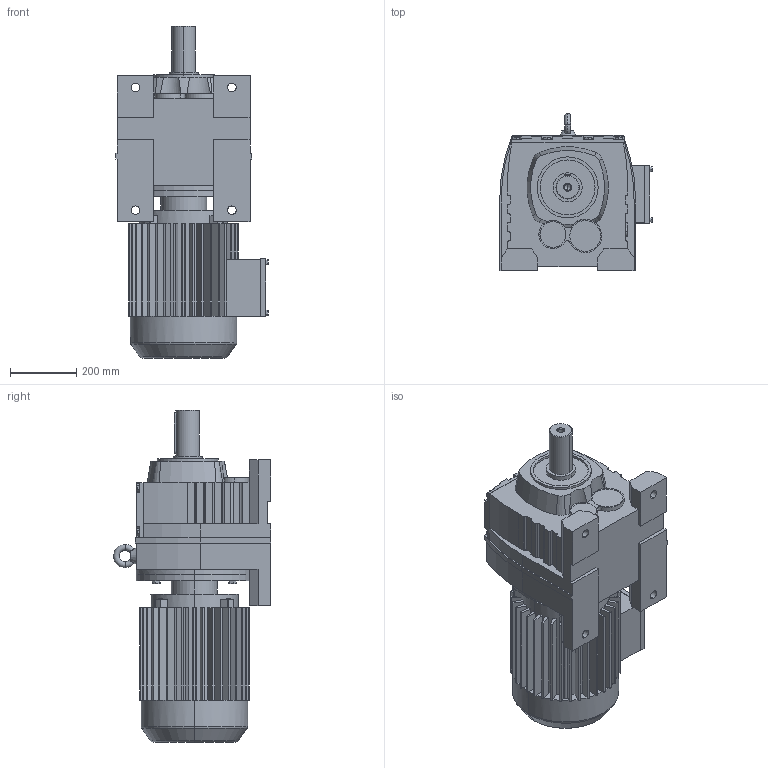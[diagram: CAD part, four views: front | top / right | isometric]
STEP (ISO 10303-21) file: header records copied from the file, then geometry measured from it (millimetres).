
FILE_DESCRIPTION(('Open CASCADE Model'),'2;1');
FILE_NAME('Open CASCADE Shape Model','2021-07-05T17:06:17',('Author'),( 'Open CASCADE'),'Open CASCADE STEP processor 6.3','Open CASCADE 6.3' ,'Unknown');
FILE_SCHEMA(('AUTOMOTIVE_DESIGN_CC2 { 1 2 10303 214 -1 1 5 4 }'));
Length unit declared in the file: millimetre
Products named in the file (3): 1_R107-Y160M; R37‵167_107.step; 萇儂_350_Y160M.step
Assembly tree (2 placements, depth 2):
  1_R107-Y160M
    R37‵167_107.step
    萇儂_350_Y160M.step
Bounding box: 459.5 x 473.5 x 1000 mm (x, y, z)
Volume: 82329081.9 mm3; surface area: 2422578.3 mm2
Topology: 2 solids, 2 shells, 742 faces, 1972 edges, 1275 vertices
Faces by surface type: plane 527, cylinder 185, cone 20, torus 10
Entity records: 51431 total; most frequent: CARTESIAN_POINT 13803, DIRECTION 6563, ORIENTED_EDGE 3940, PCURVE 3940, DEFINITIONAL_REPRESENTATION 3940, LINE 3679, VECTOR 3679, EDGE_CURVE 1970
